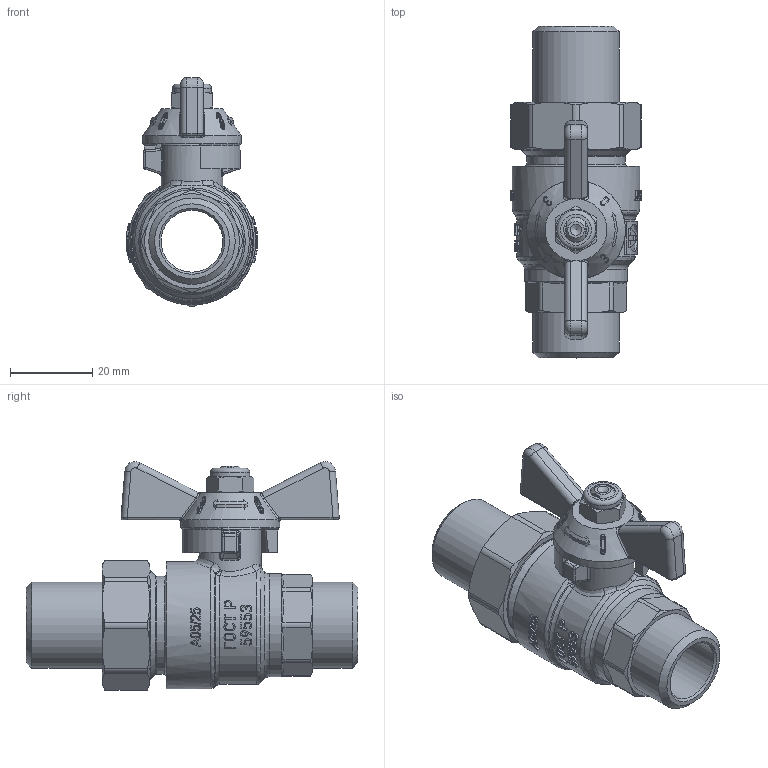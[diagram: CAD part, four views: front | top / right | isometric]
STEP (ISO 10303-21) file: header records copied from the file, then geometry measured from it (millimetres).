
FILE_DESCRIPTION(('STEP AP203'), '1');
FILE_NAME('VT.226S.N.04', '', ('UNSPECIFIED'), ('UNSPECIFIED'), 'C3D Converter', 'C3D Toolkit', '');
FILE_SCHEMA(('CONFIG_CONTROL_DESIGN'));
Length unit declared in the file: millimetre
Products named in the file (1): ВР.491816.012.000 СБ
Bounding box: 31.9 x 80.48 x 55.49 mm (x, y, z)
Volume: 34851.5 mm3; surface area: 16070 mm2
Topology: 1 solids, 1 shells, 1857 faces, 5207 edges, 3404 vertices
Faces by surface type: plane 1394, extrusion 179, cylinder 124, cone 72, bspline 68, torus 20
Full cylindrical faces by diameter (mm): 6 x1, 8 x1, 9.5 x1, 10.5 x1, 12 x1, 15 x2, 20.955 x2, 22.2 x1, 23.8 x1, 24 x1, 25 x1, 26.441 x1, 30.9 x1
Entity records: 68885 total; most frequent: CARTESIAN_POINT 28698, ORIENTED_EDGE 10304, DIRECTION 6212, EDGE_CURVE 5152, VERTEX_POINT 3402, VECTOR 2134, AXIS2_PLACEMENT_3D 2039, EDGE_LOOP 1966
